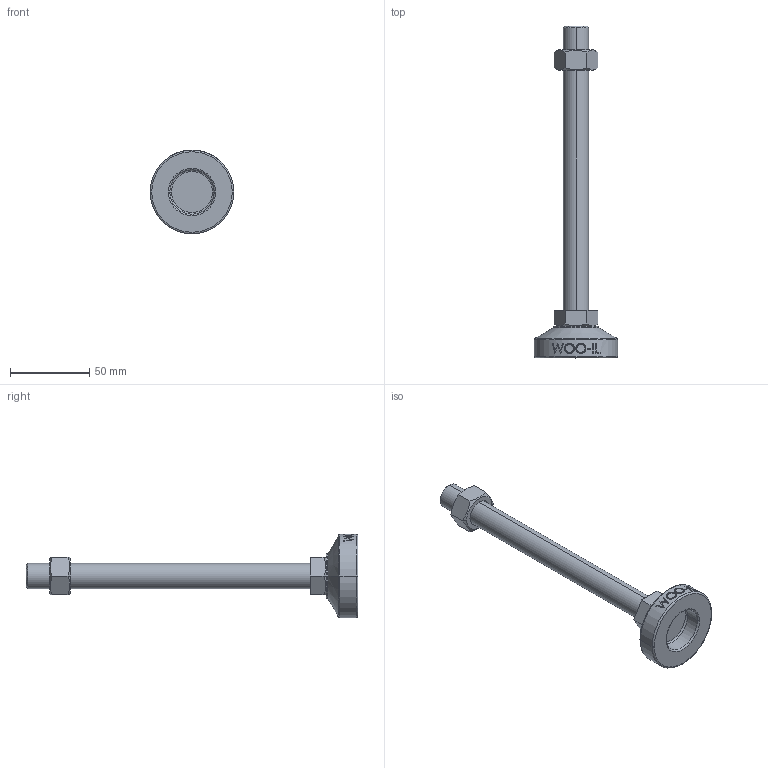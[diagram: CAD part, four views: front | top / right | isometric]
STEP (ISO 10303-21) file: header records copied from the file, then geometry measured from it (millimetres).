
FILE_DESCRIPTION (( 'STEP AP214' ), '1' );
FILE_NAME ('MFZ53-M16-180.step', '2021-01-15T07:04:39', ( '' ), ( '' ), 'SwSTEP 2.0', 'SolidWorks 2019', '' );
FILE_SCHEMA (( 'AUTOMOTIVE_DESIGN' ));
Length unit declared in the file: millimetre
Products named in the file (2): MFZ53-M16-180
Bounding box: 53 x 210 x 53 mm (x, y, z)
Volume: 74966.7 mm3; surface area: 20535.7 mm2
Topology: 3 solids, 3 shells, 106 faces, 243 edges, 154 vertices
Faces by surface type: plane 48, cylinder 18, bspline 16, cone 14, torus 10
Entity records: 4508 total; most frequent: CARTESIAN_POINT 2165, ORIENTED_EDGE 486, DIRECTION 439, EDGE_CURVE 243, AXIS2_PLACEMENT_3D 170, VERTEX_POINT 154, EDGE_LOOP 119, ADVANCED_FACE 106
